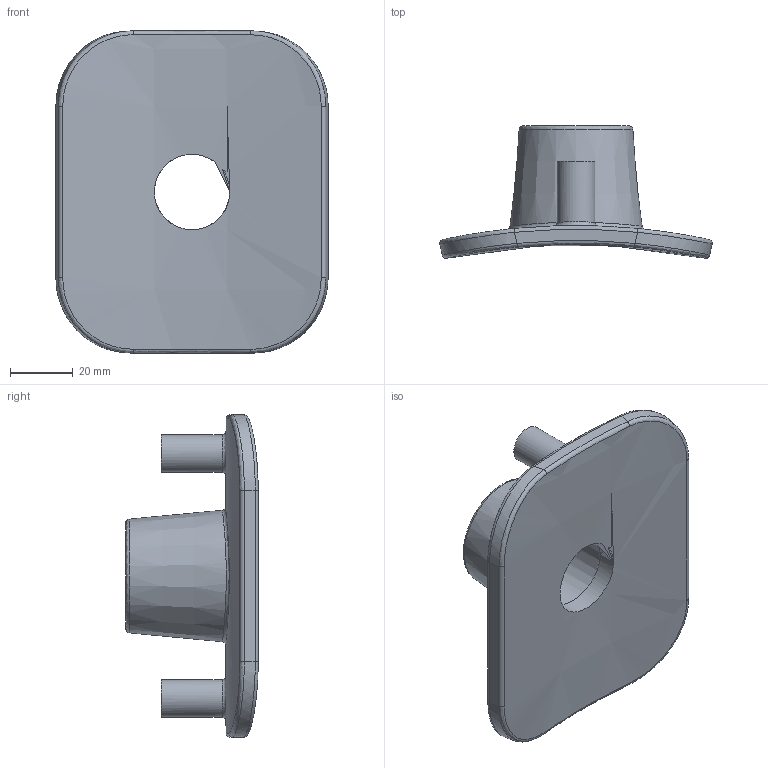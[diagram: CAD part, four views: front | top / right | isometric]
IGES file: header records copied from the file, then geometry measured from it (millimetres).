
Global section: file name: 493803400007_493803900007.ipt; native system: Autodesk Inventor 2015; preprocessor: unknown; author: KIM; date: 20190124.135358; units: millimetre
Bounding box: 87.09 x 42.34 x 103 mm (x, y, z)
Volume: 76906.3 mm3; surface area: 25624.3 mm2
Topology: 1 solids, 1 shells, 39 faces, 88 edges, 54 vertices
Faces by surface type: bspline 12, cylinder 11, revolution 8, plane 7, cone 1
Full cylindrical faces by diameter (mm): 12.059 x2
